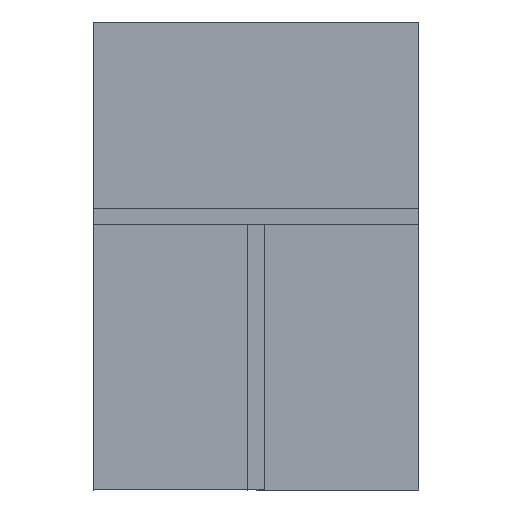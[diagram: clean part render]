
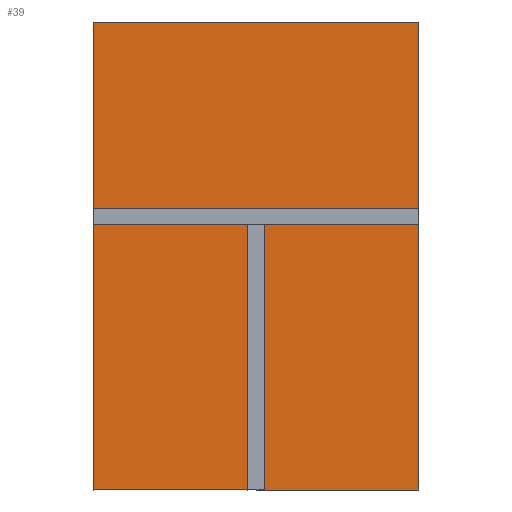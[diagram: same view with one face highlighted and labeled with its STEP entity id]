
A CAD part, left-side view. The second image highlights one B-rep face of the part: STEP entity #39.
In plain terms, the highlighted planar face has unit normal (-1, 0, 0).
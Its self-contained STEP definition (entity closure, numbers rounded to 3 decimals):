
#39=ADVANCED_FACE('',(#67),#393,.T.);
#67=FACE_OUTER_BOUND('',#95,.T.);
#95=EDGE_LOOP('',(#153,#154,#155,#156));
#153=ORIENTED_EDGE('',*,*,#247,.T.);
#154=ORIENTED_EDGE('',*,*,#240,.F.);
#155=ORIENTED_EDGE('',*,*,#242,.T.);
#156=ORIENTED_EDGE('',*,*,#246,.F.);
#240=EDGE_CURVE('',#354,#355,#300,.T.);
#242=EDGE_CURVE('',#354,#357,#302,.T.);
#246=EDGE_CURVE('',#360,#357,#306,.T.);
#247=EDGE_CURVE('',#360,#355,#307,.T.);
#300=B_SPLINE_CURVE_WITH_KNOTS('',1,(#547,#548),.UNSPECIFIED.,.F.,.F.,(2,
2),(0.,500.),.UNSPECIFIED.);
#302=B_SPLINE_CURVE_WITH_KNOTS('',1,(#551,#552),.UNSPECIFIED.,.F.,.F.,(2,
2),(16.944,334.045),.UNSPECIFIED.);
#306=B_SPLINE_CURVE_WITH_KNOTS('',1,(#559,#560),.UNSPECIFIED.,.F.,.F.,(2,
2),(6396.783,6746.783),.UNSPECIFIED.);
#307=B_SPLINE_CURVE_WITH_KNOTS('',1,(#561,#562),.UNSPECIFIED.,.F.,.F.,(2,
2),(865.955,1183.056),.UNSPECIFIED.);
#354=VERTEX_POINT('',#534);
#355=VERTEX_POINT('',#535);
#357=VERTEX_POINT('',#537);
#360=VERTEX_POINT('',#540);
#393=PLANE('',#441);
#441=AXIS2_PLACEMENT_3D('',#532,#466,$);
#466=DIRECTION('',(-1.,0.,0.));
#532=CARTESIAN_POINT('',(7382.988,6856.425,-26.798));
#534=CARTESIAN_POINT('',(7382.988,6506.425,0.088));
#535=CARTESIAN_POINT('',(7382.988,6856.425,0.088));
#537=CARTESIAN_POINT('',(7382.988,6506.425,503.241));
#540=CARTESIAN_POINT('',(7382.988,6856.425,503.241));
#547=CARTESIAN_POINT('',(7382.988,6506.425,0.088));
#548=CARTESIAN_POINT('',(7382.988,6856.425,0.088));
#551=CARTESIAN_POINT('',(7382.988,6506.425,0.088));
#552=CARTESIAN_POINT('',(7382.988,6506.425,503.241));
#559=CARTESIAN_POINT('',(7382.988,6856.425,503.241));
#560=CARTESIAN_POINT('',(7382.988,6506.425,503.241));
#561=CARTESIAN_POINT('',(7382.988,6856.425,503.241));
#562=CARTESIAN_POINT('',(7382.988,6856.425,0.088));
